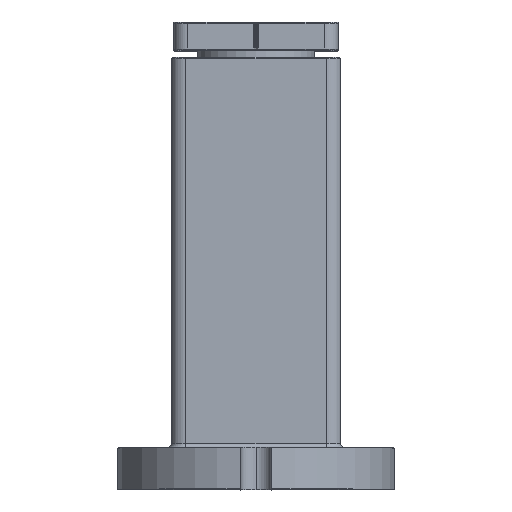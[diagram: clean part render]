
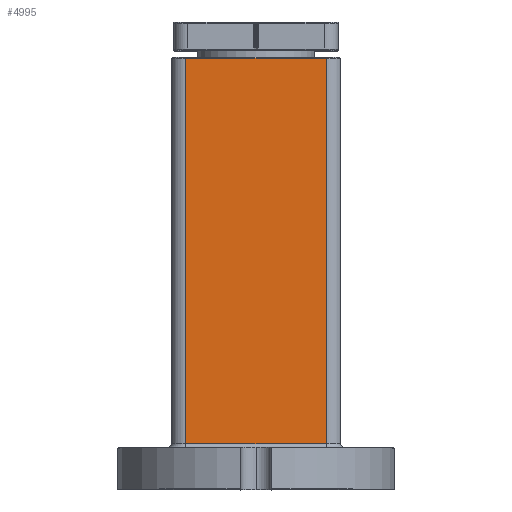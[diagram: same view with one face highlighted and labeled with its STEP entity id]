
A CAD part, top view. The second image highlights one B-rep face of the part: STEP entity #4995.
In plain terms, the highlighted planar face has unit normal (0, 0, 1).
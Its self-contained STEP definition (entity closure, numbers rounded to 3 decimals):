
#98 = VECTOR ( 'NONE', #912, 1000. ) ;
#122 = DIRECTION ( 'NONE',  ( -1., 0., 0. ) ) ;
#163 = ORIENTED_EDGE ( 'NONE', *, *, #1264, .T. ) ;
#389 = CARTESIAN_POINT ( 'NONE',  ( 30., 285.823, 36. ) ) ;
#417 = ORIENTED_EDGE ( 'NONE', *, *, #1886, .F. ) ;
#482 = VERTEX_POINT ( 'NONE', #639 ) ;
#504 = EDGE_LOOP ( 'NONE', ( #4713, #163, #417, #5263 ) ) ;
#639 = CARTESIAN_POINT ( 'NONE',  ( 30., 183.5, 36. ) ) ;
#713 = DIRECTION ( 'NONE',  ( 0., -1., 0. ) ) ;
#912 = DIRECTION ( 'NONE',  ( 0., -1., 0. ) ) ;
#1264 = EDGE_CURVE ( 'NONE', #5387, #3651, #3017, .T. ) ;
#1393 = EDGE_CURVE ( 'NONE', #4078, #5387, #4628, .T. ) ;
#1525 = DIRECTION ( 'NONE',  ( 0., 0., -1. ) ) ;
#1573 = PLANE ( 'NONE',  #2184 ) ;
#1819 = VECTOR ( 'NONE', #2074, 1000. ) ;
#1886 = EDGE_CURVE ( 'NONE', #482, #3651, #5067, .T. ) ;
#2074 = DIRECTION ( 'NONE',  ( 1., 0., 0. ) ) ;
#2184 = AXIS2_PLACEMENT_3D ( 'NONE', #5449, #1525, #122 ) ;
#2315 = CARTESIAN_POINT ( 'NONE',  ( -30., 19.5, 36. ) ) ;
#2422 = CARTESIAN_POINT ( 'NONE',  ( 30., 19.5, 36. ) ) ;
#3017 = LINE ( 'NONE', #3605, #1819 ) ;
#3569 = CARTESIAN_POINT ( 'NONE',  ( -30., 183.5, 36. ) ) ;
#3593 = DIRECTION ( 'NONE',  ( -1., 0., 0. ) ) ;
#3605 = CARTESIAN_POINT ( 'NONE',  ( -30., 19.5, 36. ) ) ;
#3641 = CARTESIAN_POINT ( 'NONE',  ( -30., 285.823, 36. ) ) ;
#3651 = VERTEX_POINT ( 'NONE', #2422 ) ;
#4078 = VERTEX_POINT ( 'NONE', #4289 ) ;
#4289 = CARTESIAN_POINT ( 'NONE',  ( -30., 183.5, 36. ) ) ;
#4391 = VECTOR ( 'NONE', #713, 1000. ) ;
#4628 = LINE ( 'NONE', #3641, #4391 ) ;
#4713 = ORIENTED_EDGE ( 'NONE', *, *, #1393, .T. ) ;
#4801 = VECTOR ( 'NONE', #3593, 1000. ) ;
#4995 = ADVANCED_FACE ( 'NONE', ( #6079 ), #1573, .F. ) ;
#5032 = LINE ( 'NONE', #3569, #4801 ) ;
#5067 = LINE ( 'NONE', #389, #98 ) ;
#5147 = EDGE_CURVE ( 'NONE', #482, #4078, #5032, .T. ) ;
#5263 = ORIENTED_EDGE ( 'NONE', *, *, #5147, .T. ) ;
#5387 = VERTEX_POINT ( 'NONE', #2315 ) ;
#5449 = CARTESIAN_POINT ( 'NONE',  ( -30., 285.823, 36. ) ) ;
#6079 = FACE_OUTER_BOUND ( 'NONE', #504, .T. ) ;
